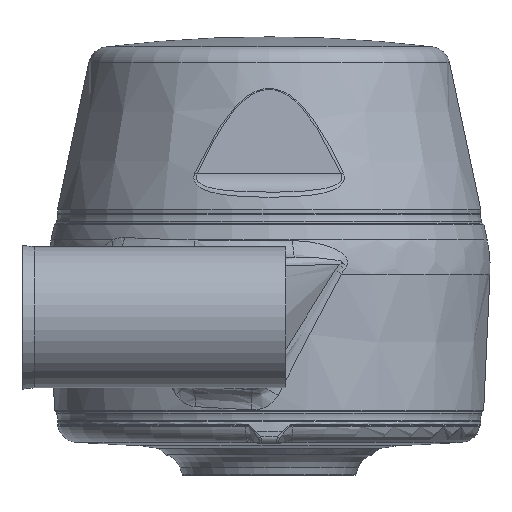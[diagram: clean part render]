
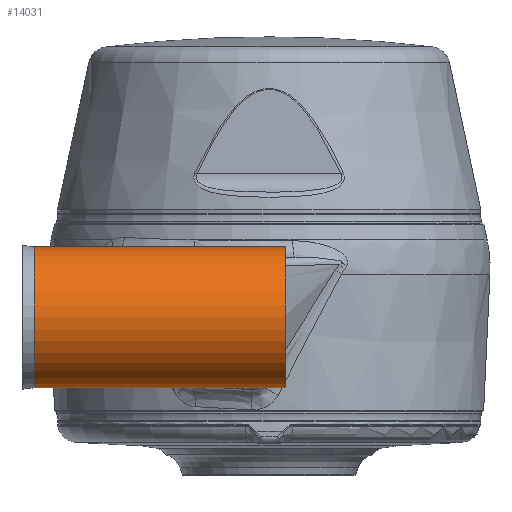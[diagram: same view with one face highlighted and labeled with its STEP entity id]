
A CAD part, front view. The second image highlights one B-rep face of the part: STEP entity #14031.
In plain terms, the highlighted cylindrical face has radius 10.5 mm (diameter 21 mm), a partial arc.
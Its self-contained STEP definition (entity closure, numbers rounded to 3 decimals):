
#437 = VERTEX_POINT ( 'NONE', #14882 ) ;
#583 = EDGE_CURVE ( 'NONE', #8433, #5954, #4230, .T. ) ;
#742 = AXIS2_PLACEMENT_3D ( 'NONE', #5530, #12410, #4461 ) ;
#755 = CARTESIAN_POINT ( 'NONE',  ( 2.5, -52.5, 0. ) ) ;
#943 = DIRECTION ( 'NONE',  ( 1., 0., 0. ) ) ;
#1735 = CARTESIAN_POINT ( 'NONE',  ( 2.5, -52.5, 10.5 ) ) ;
#2098 = EDGE_LOOP ( 'NONE', ( #3679, #5183, #6806, #3614 ) ) ;
#2140 = AXIS2_PLACEMENT_3D ( 'NONE', #7969, #943, #14864 ) ;
#2582 = LINE ( 'NONE', #10674, #4296 ) ;
#2885 = CIRCLE ( 'NONE', #2140, 10.5 ) ;
#3486 = CYLINDRICAL_SURFACE ( 'NONE', #742, 10.5 ) ;
#3614 = ORIENTED_EDGE ( 'NONE', *, *, #5353, .F. ) ;
#3679 = ORIENTED_EDGE ( 'NONE', *, *, #14748, .T. ) ;
#4230 = LINE ( 'NONE', #8847, #9636 ) ;
#4296 = VECTOR ( 'NONE', #4825, 1000. ) ;
#4382 = EDGE_CURVE ( 'NONE', #5954, #10972, #12722, .T. ) ;
#4461 = DIRECTION ( 'NONE',  ( 0., 0., 1. ) ) ;
#4825 = DIRECTION ( 'NONE',  ( 1., 0., 0. ) ) ;
#5183 = ORIENTED_EDGE ( 'NONE', *, *, #583, .T. ) ;
#5353 = EDGE_CURVE ( 'NONE', #437, #10972, #2582, .T. ) ;
#5530 = CARTESIAN_POINT ( 'NONE',  ( -36.5, -52.5, 0. ) ) ;
#5954 = VERTEX_POINT ( 'NONE', #14463 ) ;
#6806 = ORIENTED_EDGE ( 'NONE', *, *, #4382, .T. ) ;
#7178 = CARTESIAN_POINT ( 'NONE',  ( -35., -52.5, -10.5 ) ) ;
#7969 = CARTESIAN_POINT ( 'NONE',  ( -35., -52.5, 0. ) ) ;
#8433 = VERTEX_POINT ( 'NONE', #7178 ) ;
#8619 = AXIS2_PLACEMENT_3D ( 'NONE', #755, #9849, #12335 ) ;
#8847 = CARTESIAN_POINT ( 'NONE',  ( -36.5, -52.5, -10.5 ) ) ;
#9636 = VECTOR ( 'NONE', #14369, 1000. ) ;
#9849 = DIRECTION ( 'NONE',  ( -1., 0., 0. ) ) ;
#10674 = CARTESIAN_POINT ( 'NONE',  ( -36.5, -52.5, 10.5 ) ) ;
#10972 = VERTEX_POINT ( 'NONE', #1735 ) ;
#12335 = DIRECTION ( 'NONE',  ( 0., 0., 1. ) ) ;
#12410 = DIRECTION ( 'NONE',  ( 1., 0., 0. ) ) ;
#12722 = CIRCLE ( 'NONE', #8619, 10.5 ) ;
#13618 = FACE_OUTER_BOUND ( 'NONE', #2098, .T. ) ;
#14031 = ADVANCED_FACE ( 'NONE', ( #13618 ), #3486, .T. ) ;
#14369 = DIRECTION ( 'NONE',  ( 1., 0., 0. ) ) ;
#14463 = CARTESIAN_POINT ( 'NONE',  ( 2.5, -52.5, -10.5 ) ) ;
#14748 = EDGE_CURVE ( 'NONE', #437, #8433, #2885, .T. ) ;
#14864 = DIRECTION ( 'NONE',  ( 0., 0., -1. ) ) ;
#14882 = CARTESIAN_POINT ( 'NONE',  ( -35., -52.5, 10.5 ) ) ;
